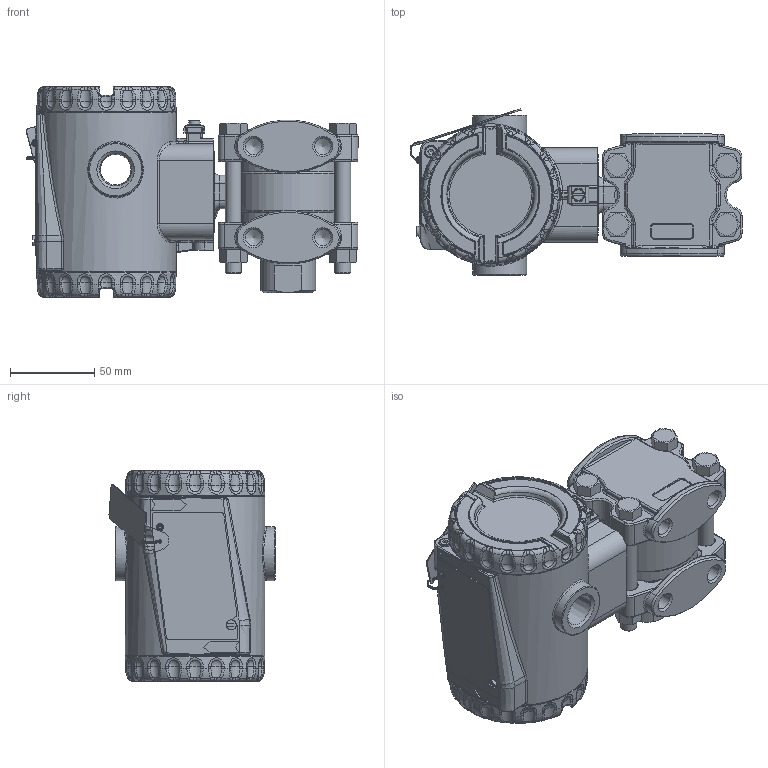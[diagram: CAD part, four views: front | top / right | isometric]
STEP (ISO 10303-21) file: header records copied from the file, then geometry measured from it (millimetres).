
FILE_DESCRIPTION(/* description */ (''),/* implementation_level */ '2;1');
FILE_NAME(/* name */ 'F:\Area\Desenvolvimento_2\Projects\Sensor\projetos\LD400-3d\dimensionais 3D clientes\LD400M0-3 1-2NPT kynar.stp',/* time_stamp */ '2023-02-02T13:21:30-03:00',/* author */ ('inventor02'),/* organization */ (''),/* preprocessor_version */ 'ST-DEVELOPER v17',/* originating_system */ 'Autodesk Inventor 2019',/* authorisation */ '');
FILE_SCHEMA (('CONFIG_CONTROL_DESIGN'));
Products named in the file (31): LD400M0-3 1-2NPT kynar; Carcaça 400 com tampas e plaqueta sem letras; 101-D-0845-05 carcaça LD400 sem letras; 101-B-3614-03-tampa 400 sem letras; Tampa visor 400 montada sem letras; 101-B-3612-05 tampa visor 400 sem letras; 101-A-6107; oring 2034; 00034775-0; WHW_250; DIN 915 - M6 x 10; Chapa aterramento externo; 201-A-1771-02 inserto terra recartilhado; AS 1969 - ST4,2; ISO 1207 - M4 x 8; ANSI B18.3.1M - M4x0,7 x 8; Subconjunto plaqueta 400; plaqueta 400 em branco; Parafuso da Plaqueta; Rebite da Plaqueta; 096-A-0169-03; 101-A-0502-01; manometrico fx0-3 kynar; involucro fx0-3 apos a usinagem final; 101-b-2616 - kynar 1-2NPT; 096-C-0116-03; 096-B-0117-06; ISO 8752 - 3 x 14  A; 096-C-0014-13 manom reforçado; Paraf. 3-8 x 16 UNC; Porca 3-8 x 16 UNC
Assembly tree (37 placements, depth 4):
  LD400M0-3 1-2NPT kynar
    Carcaça 400 com tampas e plaqueta sem letras
      101-D-0845-05 carcaça LD400 sem letras
      101-B-3614-03-tampa 400 sem letras
      Tampa visor 400 montada sem letras
        101-B-3612-05 tampa visor 400 sem letras
        101-A-6107
        oring 2034
        00034775-0
        WHW_250
      DIN 915 - M6 x 10
      Chapa aterramento externo
      201-A-1771-02 inserto terra recartilhado
      AS 1969 - ST4,2
      ISO 1207 - M4 x 8
      ANSI B18.3.1M - M4x0,7 x 8  x2
      Subconjunto plaqueta 400
        plaqueta 400 em branco
        Parafuso da Plaqueta
        Rebite da Plaqueta
        096-A-0169-03
        101-A-0502-01
    manometrico fx0-3 kynar
      involucro fx0-3 apos a usinagem final
      101-b-2616 - kynar 1-2NPT
        096-C-0116-03
        096-B-0117-06
        ISO 8752 - 3 x 14  A
      096-C-0014-13 manom reforçado
      Paraf. 3-8 x 16 UNC  x4
      Porca 3-8 x 16 UNC  x4
Bounding box: 197.27 x 98.64 x 125 mm (x, y, z)
Volume: 637674.3 mm3; surface area: 238206.4 mm2
Topology: 32 solids, 32 shells, 2497 faces, 6138 edges, 3703 vertices
Faces by surface type: plane 674, cylinder 610, bspline 549, torus 441, cone 162, sphere 61
Full cylindrical faces by diameter (mm): 2 x2, 2.1 x1, 2.2 x1, 2.459 x3, 2.7 x1, 3 x3, 3.242 x3, 3.571 x1, 4 x4, 4.3 x2, 4.4 x1, 4.917 x1, 6 x2, 6.1 x2, 6.2 x1, 7 x2, 7.6 x2, 7.798 x4, 9.525 x4, 9.728 x6, 10.5 x8, 14 x1, 17.475 x1, 18.3 x2, 32 x2, 32.9 x2, 34.6 x1, 36 x1, 40.5 x1, 42 x1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
Entity records: 92017 total; most frequent: CARTESIAN_POINT 36055, ORIENTED_EDGE 11750, DIRECTION 11255, EDGE_CURVE 5875, AXIS2_PLACEMENT_3D 4719, VERTEX_POINT 3569, CIRCLE 2698, EDGE_LOOP 2512
